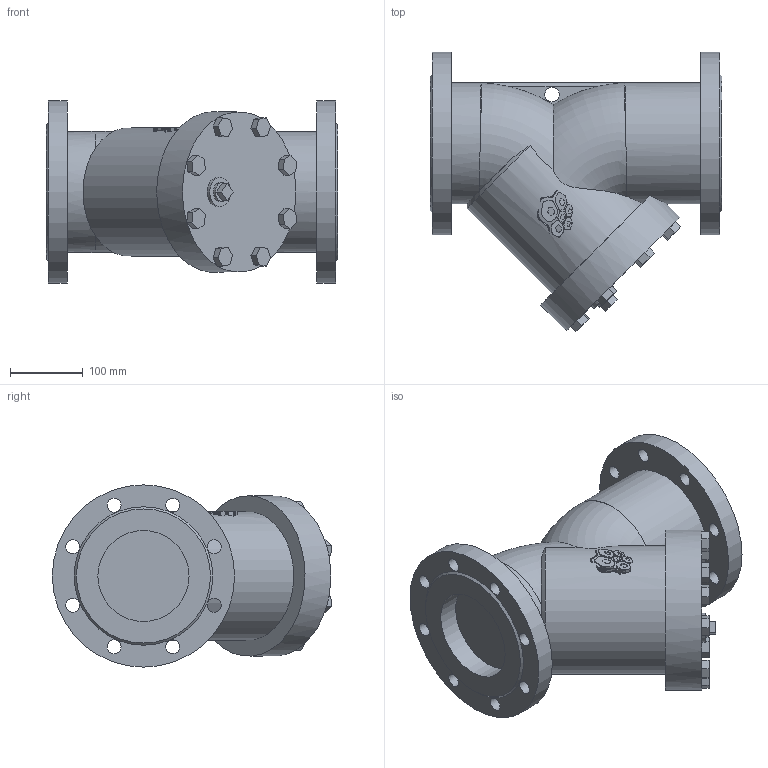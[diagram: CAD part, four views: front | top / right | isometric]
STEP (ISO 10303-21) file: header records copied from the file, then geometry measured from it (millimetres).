
FILE_DESCRIPTION(('STEP AP203'), '1');
FILE_NAME('3D_600_601-125-16_1,6', '', ('UNSPECIFIED'), ('UNSPECIFIED'), 'C3D Converter', 'C3D Toolkit', '');
FILE_SCHEMA(('CONFIG_CONTROL_DESIGN'));
Length unit declared in the file: millimetre
Bounding box: 400 x 383.15 x 250 mm (x, y, z)
Volume: 13490130.5 mm3; surface area: 534993.2 mm2
Topology: 1 solids, 1 shells, 949 faces, 2768 edges, 1844 vertices
Faces by surface type: plane 899, cylinder 43, torus 4, cone 3
Full cylindrical faces by diameter (mm): 19 x16, 20 x1, 26 x1, 40 x1, 125 x2, 220 x1, 250 x2
Entity records: 39793 total; most frequent: CARTESIAN_POINT 9292, ORIENTED_EDGE 5484, DIRECTION 3900, EDGE_CURVE 2742, VERTEX_POINT 1844, LINE 1812, VECTOR 1812, AXIS2_PLACEMENT_3D 1044
